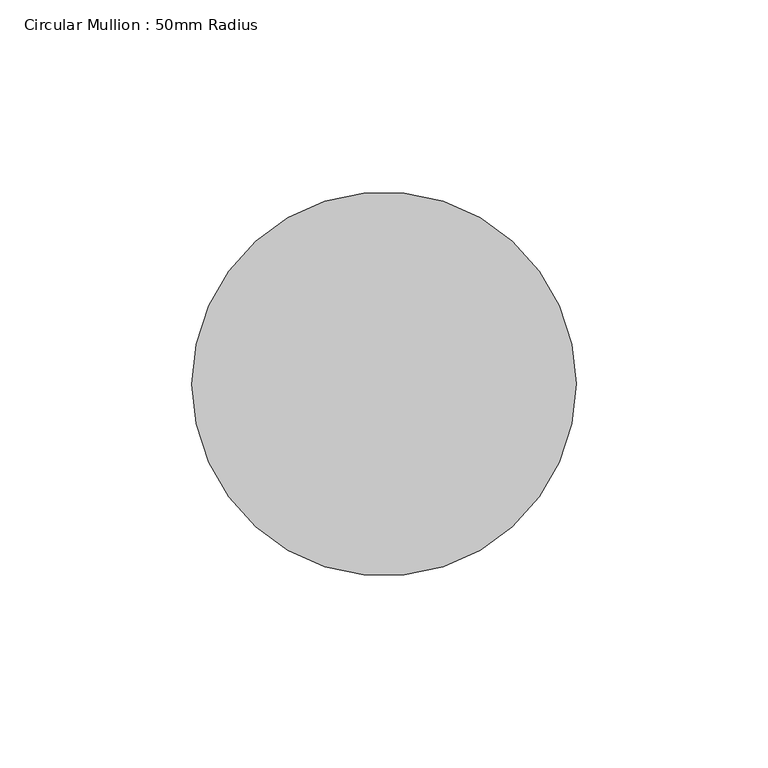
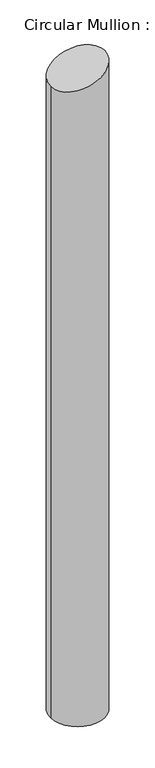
"""IFC4 building model written with IfcOpenShell, lengths in millimetres: member geometry, Circular Mullion : 50mm Radius."""

import ifcopenshell
import ifcopenshell.guid

model = None  # the IFC model being written
_history = None  # IfcOwnerHistory: only IFC2X3 demands one
_inside = {}  # id of a spatial element -> (the spatial element, [elements in it])
_under = {}  # id of a project, library or spatial element -> (it, [spatial elements below it])
_declared = {}  # id of a project -> (the project, [libraries it declares])
_typed = {}  # id of a type object -> (the type object, [elements of that type])
_made_of = {}  # id of a material, layer set ... -> (it, [elements and type objects made of it])


def new_model(schema):
    """Start an empty IFC model of exactly this schema.

    Asked for "IFC4X3", IfcOpenShell would pick the latest addendum, in which some entities
    have other attributes; the version numbers below select the first issue.
    IFC2X3 requires an IfcOwnerHistory on every rooted entity: one is made here for all.
    """
    global model, _history
    if schema == "IFC4X3":
        model = ifcopenshell.file(schema_version=(4, 3, 0, 0))
    else:
        model = ifcopenshell.file(schema=schema)
    _inside.clear()
    _under.clear()
    _declared.clear()
    _typed.clear()
    _made_of.clear()
    _history = None
    if model.schema == "IFC2X3":
        org = make("IfcOrganization", Name="unknown")
        user = make(
            "IfcPersonAndOrganization",
            ThePerson=make("IfcPerson", FamilyName="unknown"),
            TheOrganization=org,
        )
        app = make(
            "IfcApplication",
            ApplicationDeveloper=org,
            Version="unknown",
            ApplicationFullName="unknown",
            ApplicationIdentifier="unknown",
        )
        _history = make(
            "IfcOwnerHistory",
            OwningUser=user,
            OwningApplication=app,
            ChangeAction="ADDED",
            CreationDate=0,
        )
    return model


def make(cls, **values):
    """One entity of the class cls with the attributes given. An attribute that is None is left unset."""
    return model.create_entity(
        cls, **{name: value for name, value in values.items() if value is not None}
    )


def rooted(cls, **values):
    """An entity with a GlobalId (a new one), such as an element, a storey or a relation."""
    return make(cls, GlobalId=ifcopenshell.guid.new(), OwnerHistory=_history, **values)


def si_unit(unit_type, name, prefix=None):
    """IfcSIUnit, for example si_unit("LENGTHUNIT", "METRE", prefix="MILLI")."""
    return make("IfcSIUnit", UnitType=unit_type, Prefix=prefix, Name=name)


def assignment(units):
    """IfcUnitAssignment: the units of a project."""
    return None if units is None else make("IfcUnitAssignment", Units=units)


def point(xyz):
    """IfcCartesianPoint."""
    return None if xyz is None else make("IfcCartesianPoint", Coordinates=xyz)


def direction(xyz):
    """IfcDirection."""
    return None if xyz is None else make("IfcDirection", DirectionRatios=xyz)


def frame(location, z_axis=None, x_axis=None):
    """IfcAxis2Placement3D, a coordinate frame: its origin and axes. An axis left out is left unset."""
    return make(
        "IfcAxis2Placement3D",
        Location=point(location),
        Axis=direction(z_axis),
        RefDirection=direction(x_axis),
    )


def origin():
    """The frame at (0, 0, 0) with its axes left unset."""
    return frame((0.0, 0.0, 0.0))


def place(relative_to, where):
    """IfcLocalPlacement: puts the frame where relative to a parent placement (None: the world)."""
    return make(
        "IfcLocalPlacement", PlacementRelTo=relative_to, RelativePlacement=where
    )


def context(
    kind, dimensions, precision=None, world=None, true_north=None, identifier=None
):
    """IfcGeometricRepresentationContext, for example the 3D "Model" context."""
    return make(
        "IfcGeometricRepresentationContext",
        ContextIdentifier=identifier,
        ContextType=kind,
        CoordinateSpaceDimension=dimensions,
        Precision=precision,
        WorldCoordinateSystem=world,
        TrueNorth=true_north,
    )


def project(units=None, contexts=None):
    """IfcProject with its units and contexts."""
    return rooted(
        "IfcProject",
        Name="project",
        RepresentationContexts=contexts,
        UnitsInContext=assignment(units),
    )


def spatial(cls, under=None, at=None, **own):
    """A site, building, storey or space (cls), placed at a placement, below another one or the project."""
    s = rooted(cls, ObjectPlacement=at, **own)
    if under is not None:
        _under.setdefault(under.id(), (under, []))[1].append(s)
    return s


def circle_curve(where, radius):
    """IfcCircle in the frame where."""
    return make("IfcCircle", Position=where, Radius=radius)


def ellipse_curve(where, semi_axis1, semi_axis2):
    """IfcEllipse in the frame where."""
    return make(
        "IfcEllipse", Position=where, SemiAxis1=semi_axis1, SemiAxis2=semi_axis2
    )


def shape(context_of_items, identifier, shape_type, items):
    """IfcShapeRepresentation: the items that make up one representation, for example the "Body"."""
    return make(
        "IfcShapeRepresentation",
        ContextOfItems=context_of_items,
        RepresentationIdentifier=identifier,
        RepresentationType=shape_type,
        Items=items,
    )


def source(mapping_origin, context_of_items, identifier, shape_type, items):
    """IfcRepresentationMap: a shape defined once, which mapped items show again and again."""
    return make(
        "IfcRepresentationMap",
        MappingOrigin=mapping_origin,
        MappedRepresentation=shape(context_of_items, identifier, shape_type, items),
    )


def transform(
    local_origin,
    x_axis=None,
    y_axis=None,
    z_axis=None,
    scale=None,
    scale2=None,
    scale3=None,
    uniform=True,
):
    """IfcCartesianTransformationOperator3D, or its non-uniform kind. x_axis, y_axis, z_axis: its Axis1, 2, 3."""
    if uniform:
        return make(
            "IfcCartesianTransformationOperator3D",
            Axis1=direction(x_axis),
            Axis2=direction(y_axis),
            LocalOrigin=point(local_origin),
            Scale=scale,
            Axis3=direction(z_axis),
        )
    return make(
        "IfcCartesianTransformationOperator3DnonUniform",
        Axis1=direction(x_axis),
        Axis2=direction(y_axis),
        LocalOrigin=point(local_origin),
        Scale=scale,
        Axis3=direction(z_axis),
        Scale2=scale2,
        Scale3=scale3,
    )


def mapped(mapping_source, mapping_target):
    """IfcMappedItem: shows the shape of a source again, moved by a transform."""
    return make(
        "IfcMappedItem", MappingSource=mapping_source, MappingTarget=mapping_target
    )


def made_of(thing, what):
    """Note that an element or type object is made of a material, layer set ...; save() writes the relation."""
    if what is not None:
        _made_of.setdefault(what.id(), (what, []))[1].append(thing)
    return thing


def element(
    cls,
    number,
    at=None,
    inside=None,
    cuts=None,
    type_object=None,
    material=None,
    context=None,
    identifier="Body",
    shape_type=None,
    held_by="IfcProductDefinitionShape",
    body=None,
    shapes=None,
    **own,
):
    """One element of the class cls, such as IfcWall. Its Tag is "e" and its number.

    at: its placement. inside: the storey or other place that contains it. cuts: it is an
    opening in that element (IfcRelVoidsElement). A single representation is given by context,
    identifier, shape_type and body (its items); several are given by shapes. held_by: the class
    of the entity that holds the representations. save() writes the other relations.
    """
    e = rooted(cls, Tag="e%d" % number, ObjectPlacement=at, **own)
    if body is not None:
        shapes = [shape(context, identifier, shape_type, body)]
    if shapes is not None:
        e.Representation = make(held_by, Representations=shapes)
    if inside is not None:
        _inside.setdefault(inside.id(), (inside, []))[1].append(e)
    if cuts is not None:
        rooted(
            "IfcRelVoidsElement", RelatingBuildingElement=cuts, RelatedOpeningElement=e
        )
    if type_object is not None:
        _typed.setdefault(type_object.id(), (type_object, []))[1].append(e)
    return made_of(e, material)


def aggregate(whole, parts):
    """IfcRelAggregates: a whole, such as a stair, and the parts it consists of."""
    return rooted("IfcRelAggregates", RelatingObject=whole, RelatedObjects=parts)


def save(model, path):
    """Write the relations noted so far, then the file.

    IfcRelAggregates (storeys below a building ...), IfcRelContainedInSpatialStructure (elements
    in a storey), IfcRelDefinesByType, IfcRelAssociatesMaterial and IfcRelDeclares: one each for
    every whole, place, type object, material and project.
    """
    for whole, parts in _under.values():
        aggregate(whole, parts)
    for where, things in _inside.values():
        rooted(
            "IfcRelContainedInSpatialStructure",
            RelatedElements=things,
            RelatingStructure=where,
        )
    for kind, things in _typed.values():
        rooted("IfcRelDefinesByType", RelatedObjects=things, RelatingType=kind)
    for what, things in _made_of.values():
        rooted("IfcRelAssociatesMaterial", RelatedObjects=things, RelatingMaterial=what)
    for by, libraries in _declared.values():
        rooted("IfcRelDeclares", RelatingContext=by, RelatedDefinitions=libraries)
    model.write(path)


def plane_surface(at):
    """IfcPlane: the flat surface through the origin of the frame at, square to its z axis."""
    return make("IfcPlane", Position=at)


def cylinder_surface(at, radius):
    """IfcCylindricalSurface: all points at the distance radius from the z axis of the frame at."""
    return make("IfcCylindricalSurface", Position=at, Radius=radius)


def advanced_brep(points, edges, surfaces, faces):
    """IfcAdvancedBrep: a solid bounded by faces that lie on surfaces and meet in shared edges.

    An edge is (start, end): straight between two places in points (the first is 0);
    or (start, end, curve); or (start, end, curve, False) where it runs against its curve.
    A face is (place in surfaces, loops), or (place, loops, False) where it looks against
    its surface's normal. A loop lists edges by number (the first is 1), with a minus sign
    where the edge is run from its end to its start. The first loop is the outer one.
    """
    corners = [point(p) for p in points]
    vertices = [make("IfcVertexPoint", VertexGeometry=c) for c in corners]
    made = []
    for start, end, *more in edges:
        made.append(
            make(
                "IfcEdgeCurve",
                EdgeStart=vertices[start],
                EdgeEnd=vertices[end],
                EdgeGeometry=more[0] if more else make("IfcPolyline", Points=[corners[start], corners[end]]),
                SameSense=more[1] if len(more) > 1 else True,
            )
        )
    hull = []
    for where, loops, *sense in faces:
        bounds = []
        for j, loop in enumerate(loops):
            ring = [make("IfcOrientedEdge", EdgeElement=made[abs(k) - 1], Orientation=k > 0) for k in loop]
            bounds.append(
                make(
                    "IfcFaceOuterBound" if j == 0 else "IfcFaceBound",
                    Bound=make("IfcEdgeLoop", EdgeList=ring),
                    Orientation=True,
                )
            )
        hull.append(make("IfcAdvancedFace", Bounds=bounds, FaceSurface=surfaces[where], SameSense=sense[0] if sense else True))
    return make("IfcAdvancedBrep", Outer=make("IfcClosedShell", CfsFaces=hull))


def circular_mullion_50mm_radius_da544194(model_context):
    return source(origin(), model_context, "Body", "AdvancedBrep", [
        advanced_brep(
        [(-100.0, 0.0, -35.4118573), (0.0, 0.0, 0.0), (0.0, 0.0, -1271.2125833), (-100.0, 0.0, -1271.2125833)],
        [
            (0, 1, ellipse_curve(frame((-50.0, 0.0, -17.7059286), z_axis=(0.33380685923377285, 0.0, -0.9426414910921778), x_axis=(0.9426414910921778, 0.0, 0.3338068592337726)), 53.042435, 50.0)),
            (1, 2),
            (2, 3, circle_curve(frame((-50.0, 0.0, -1271.2125833), z_axis=(0.0, 0.0, 1.0), x_axis=(1.0, 0.0, 0.0)), 50.0)),
            (3, 0),
            (1, 0, ellipse_curve(frame((-50.0, 0.0, -17.7059286), z_axis=(0.33380685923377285, 0.0, -0.9426414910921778), x_axis=(0.9426414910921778, 0.0, 0.3338068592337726)), 53.042435, 50.0)),
            (3, 2, circle_curve(frame((-50.0, 0.0, -1271.2125833), z_axis=(0.0, 0.0, 1.0), x_axis=(1.0, 0.0, 0.0)), 50.0)),
        ],
        [
            cylinder_surface(frame((-50.0, 0.0, 0.0), z_axis=(0.0, 0.0, 1.0), x_axis=(1.0, 0.0, 0.0)), 50.0),
            plane_surface(frame((0.0, -304.8, 0.0), z_axis=(-0.33380685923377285, 0.0, 0.9426414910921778), x_axis=(-0.9426414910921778, 0.0, -0.33380685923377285))),
            plane_surface(frame((-304.8, 0.0, -1271.2125833), z_axis=(0.0, 0.0, -1.0), x_axis=(0.0, 1.0, 0.0))),
        ],
        [
            (0, [[1, 2, 3, 4]]),
            (0, [[5, -4, 6, -2]]),
            (1, [[-1, -5]]),
            (2, [[-6, -3]]),
        ],
    ),
    ])


if __name__ == "__main__":
    model = new_model("IFC4")
    model_context = context("Model", 3, world=origin())
    ifc_project = project(units=[si_unit("LENGTHUNIT", "METRE", prefix="MILLI")], contexts=[model_context])
    site = spatial("IfcSite", under=ifc_project)
    building = spatial("IfcBuilding", under=site)
    placement = place(None, origin())
    circular_mullion_50mm_radius_shape = circular_mullion_50mm_radius_da544194(model_context)
    element("IfcMember", 1, ObjectType="Circular Mullion : 50mm Radius", at=placement, inside=building, context=model_context, shape_type="MappedRepresentation", body=[
        mapped(circular_mullion_50mm_radius_shape, transform((0.0, 0.0, 0.0), x_axis=(1.0, 0.0, 0.0), y_axis=(0.0, 1.0, 0.0), z_axis=(0.0, 0.0, 1.0))),
    ])
    save(model, "model.ifc")
